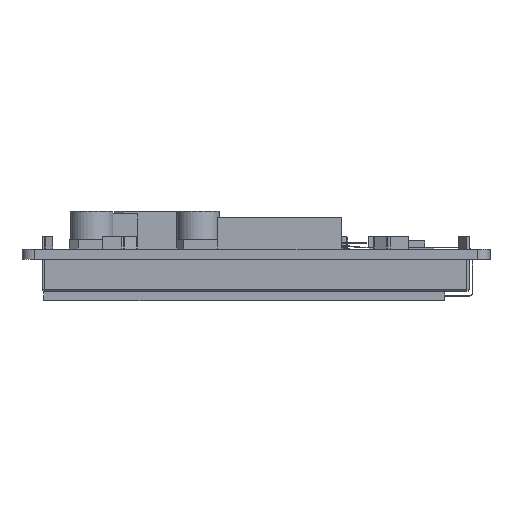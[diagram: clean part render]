
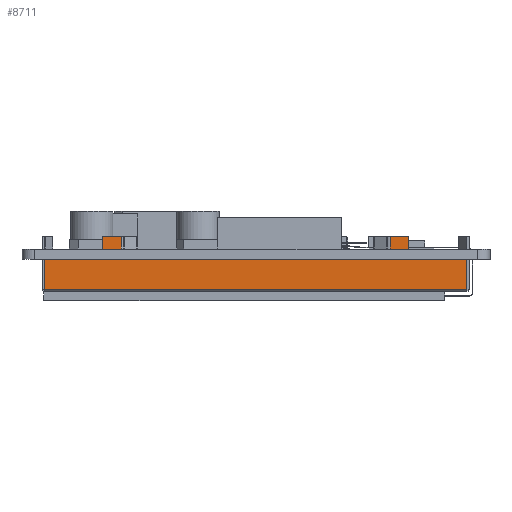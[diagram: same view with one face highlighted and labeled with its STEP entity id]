
A CAD part, left-side view. The second image highlights one B-rep face of the part: STEP entity #8711.
In plain terms, the highlighted planar face has unit normal (-1, 0, 0).
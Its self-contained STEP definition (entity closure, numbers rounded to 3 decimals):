
#4016=PLANE('',#53528);
#6336=FACE_OUTER_BOUND('',#11730,.T.);
#8711=ADVANCED_FACE('',(#6336),#4016,.F.);
#11730=EDGE_LOOP('',(#24373,#24374,#24375,#24376,#24377,#24378,#24379,#24380,
#24381,#24382,#24383,#24384,#24385,#24386,#24387,#24388));
#24373=ORIENTED_EDGE('',*,*,#36330,.T.);
#24374=ORIENTED_EDGE('',*,*,#36331,.F.);
#24375=ORIENTED_EDGE('',*,*,#36332,.F.);
#24376=ORIENTED_EDGE('',*,*,#36333,.T.);
#24377=ORIENTED_EDGE('',*,*,#36334,.T.);
#24378=ORIENTED_EDGE('',*,*,#36335,.T.);
#24379=ORIENTED_EDGE('',*,*,#36328,.T.);
#24380=ORIENTED_EDGE('',*,*,#36336,.F.);
#24381=ORIENTED_EDGE('',*,*,#36337,.T.);
#24382=ORIENTED_EDGE('',*,*,#36338,.F.);
#24383=ORIENTED_EDGE('',*,*,#36339,.F.);
#24384=ORIENTED_EDGE('',*,*,#36340,.T.);
#24385=ORIENTED_EDGE('',*,*,#36322,.T.);
#24386=ORIENTED_EDGE('',*,*,#36341,.F.);
#24387=ORIENTED_EDGE('',*,*,#36342,.F.);
#24388=ORIENTED_EDGE('',*,*,#36343,.T.);
#29706=VERTEX_POINT('',#79373);
#29707=VERTEX_POINT('',#79374);
#29712=VERTEX_POINT('',#79385);
#29713=VERTEX_POINT('',#79387);
#29714=VERTEX_POINT('',#79391);
#29715=VERTEX_POINT('',#79392);
#29716=VERTEX_POINT('',#79394);
#29717=VERTEX_POINT('',#79396);
#29718=VERTEX_POINT('',#79398);
#29719=VERTEX_POINT('',#79400);
#29720=VERTEX_POINT('',#79403);
#29721=VERTEX_POINT('',#79405);
#29722=VERTEX_POINT('',#79407);
#29723=VERTEX_POINT('',#79409);
#29724=VERTEX_POINT('',#79412);
#29725=VERTEX_POINT('',#79414);
#36322=EDGE_CURVE('',#29706,#29707,#43474,.T.);
#36328=EDGE_CURVE('',#29713,#29712,#43480,.T.);
#36330=EDGE_CURVE('',#29714,#29715,#43482,.T.);
#36331=EDGE_CURVE('',#29716,#29715,#43483,.T.);
#36332=EDGE_CURVE('',#29717,#29716,#43484,.T.);
#36333=EDGE_CURVE('',#29717,#29718,#43485,.T.);
#36334=EDGE_CURVE('',#29718,#29719,#43486,.T.);
#36335=EDGE_CURVE('',#29719,#29713,#43487,.T.);
#36336=EDGE_CURVE('',#29720,#29712,#43488,.T.);
#36337=EDGE_CURVE('',#29720,#29721,#43489,.T.);
#36338=EDGE_CURVE('',#29722,#29721,#43490,.T.);
#36339=EDGE_CURVE('',#29723,#29722,#43491,.T.);
#36340=EDGE_CURVE('',#29723,#29706,#43492,.T.);
#36341=EDGE_CURVE('',#29724,#29707,#43493,.T.);
#36342=EDGE_CURVE('',#29725,#29724,#43494,.T.);
#36343=EDGE_CURVE('',#29725,#29714,#43495,.T.);
#43474=LINE('',#79372,#49423);
#43480=LINE('',#79386,#49429);
#43482=LINE('',#79390,#49431);
#43483=LINE('',#79393,#49432);
#43484=LINE('',#79395,#49433);
#43485=LINE('',#79397,#49434);
#43486=LINE('',#79399,#49435);
#43487=LINE('',#79401,#49436);
#43488=LINE('',#79402,#49437);
#43489=LINE('',#79404,#49438);
#43490=LINE('',#79406,#49439);
#43491=LINE('',#79408,#49440);
#43492=LINE('',#79410,#49441);
#43493=LINE('',#79411,#49442);
#43494=LINE('',#79413,#49443);
#43495=LINE('',#79415,#49444);
#49423=VECTOR('',#65134,1.);
#49429=VECTOR('',#65142,1.);
#49431=VECTOR('',#65146,1.);
#49432=VECTOR('',#65147,1.);
#49433=VECTOR('',#65148,1.);
#49434=VECTOR('',#65149,1.);
#49435=VECTOR('',#65150,1.);
#49436=VECTOR('',#65151,1.);
#49437=VECTOR('',#65152,1.);
#49438=VECTOR('',#65153,1.);
#49439=VECTOR('',#65154,1.);
#49440=VECTOR('',#65155,1.);
#49441=VECTOR('',#65156,1.);
#49442=VECTOR('',#65157,1.);
#49443=VECTOR('',#65158,1.);
#49444=VECTOR('',#65159,1.);
#53528=AXIS2_PLACEMENT_3D('',#79416,#65160,#65161);
#65134=DIRECTION('',(0.,1.,0.));
#65142=DIRECTION('',(0.,1.,0.));
#65146=DIRECTION('',(0.,1.,0.));
#65147=DIRECTION('',(0.,0.,-1.));
#65148=DIRECTION('',(0.,-1.,0.));
#65149=DIRECTION('',(0.,0.,-1.));
#65150=DIRECTION('',(0.,1.,0.));
#65151=DIRECTION('',(0.,0.,-1.));
#65152=DIRECTION('',(0.,0.,-1.));
#65153=DIRECTION('',(0.,-1.,0.));
#65154=DIRECTION('',(0.,0.,-1.));
#65155=DIRECTION('',(0.,-1.,0.));
#65156=DIRECTION('',(0.,0.,-1.));
#65157=DIRECTION('',(0.,0.,1.));
#65158=DIRECTION('',(0.,1.,0.));
#65159=DIRECTION('',(0.,0.,1.));
#65160=DIRECTION('',(1.,0.,0.));
#65161=DIRECTION('',(0.,1.,0.));
#79372=CARTESIAN_POINT('',(67.65,-14.395,-1.6));
#79373=CARTESIAN_POINT('',(67.65,43.765,-1.6));
#79374=CARTESIAN_POINT('',(67.65,53.005,-1.6));
#79385=CARTESIAN_POINT('',(67.65,40.765,-1.6));
#79386=CARTESIAN_POINT('',(67.65,-14.395,-1.6));
#79387=CARTESIAN_POINT('',(67.65,-2.155,-1.6));
#79390=CARTESIAN_POINT('',(67.65,-14.395,-1.6));
#79391=CARTESIAN_POINT('',(67.65,-14.395,-1.6));
#79392=CARTESIAN_POINT('',(67.65,-5.155,-1.6));
#79393=CARTESIAN_POINT('',(67.65,-5.155,0.));
#79394=CARTESIAN_POINT('',(67.65,-5.155,2.));
#79395=CARTESIAN_POINT('',(67.65,-2.19,2.));
#79396=CARTESIAN_POINT('',(67.65,-2.19,2.));
#79397=CARTESIAN_POINT('',(67.65,-2.19,2.));
#79398=CARTESIAN_POINT('',(67.65,-2.19,0.));
#79399=CARTESIAN_POINT('',(67.65,-5.155,0.));
#79400=CARTESIAN_POINT('',(67.65,-2.155,0.));
#79401=CARTESIAN_POINT('',(67.65,-2.155,0.));
#79402=CARTESIAN_POINT('',(67.65,40.765,0.));
#79403=CARTESIAN_POINT('',(67.65,40.765,0.));
#79404=CARTESIAN_POINT('',(67.65,43.765,0.));
#79405=CARTESIAN_POINT('',(67.65,40.754,0.));
#79406=CARTESIAN_POINT('',(67.65,40.754,2.));
#79407=CARTESIAN_POINT('',(67.65,40.754,2.));
#79408=CARTESIAN_POINT('',(67.65,43.765,2.));
#79409=CARTESIAN_POINT('',(67.65,43.765,2.));
#79410=CARTESIAN_POINT('',(67.65,43.765,0.));
#79411=CARTESIAN_POINT('',(67.65,53.005,-6.4));
#79412=CARTESIAN_POINT('',(67.65,53.005,-6.4));
#79413=CARTESIAN_POINT('',(67.65,-14.395,-6.4));
#79414=CARTESIAN_POINT('',(67.65,-14.395,-6.4));
#79415=CARTESIAN_POINT('',(67.65,-14.395,-6.4));
#79416=CARTESIAN_POINT('',(67.65,-14.395,-6.4));
